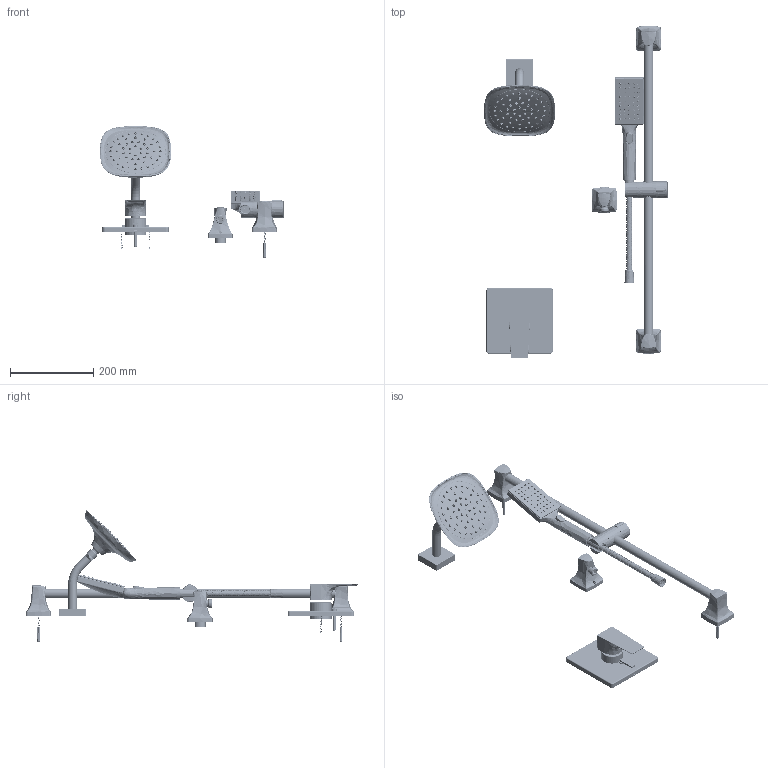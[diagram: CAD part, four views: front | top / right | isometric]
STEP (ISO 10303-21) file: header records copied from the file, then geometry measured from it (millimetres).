
FILE_DESCRIPTION (( 'STEP AP214' ), '1' );
FILE_NAME ('S4998TRM.STEP', '2025-01-02T05:12:44', ( '' ), ( '' ), 'SwSTEP 2.0', 'SolidWorks 2023', '' );
FILE_SCHEMA (( 'AUTOMOTIVE_DESIGN' ));
Products named in the file (1): S4998TRM
Bounding box: 440.44 x 795.52 x 315.17 mm (x, y, z)
Surface area: 497894.9 mm2 (no closed solid volume)
Topology: 0 solids, 323 shells, 1914 faces, 6756 edges, 5046 vertices
Faces by surface type: bspline 509, plane 449, cylinder 441, cone 380, torus 124, sphere 11
Entity records: 253943 total; most frequent: CARTESIAN_POINT 203719, ORIENTED_EDGE 9843, DIRECTION 8506, EDGE_CURVE 6745, VERTEX_POINT 5045, AXIS2_PLACEMENT_3D 3306, B_SPLINE_CURVE_WITH_KNOTS 2675, EDGE_LOOP 2281
